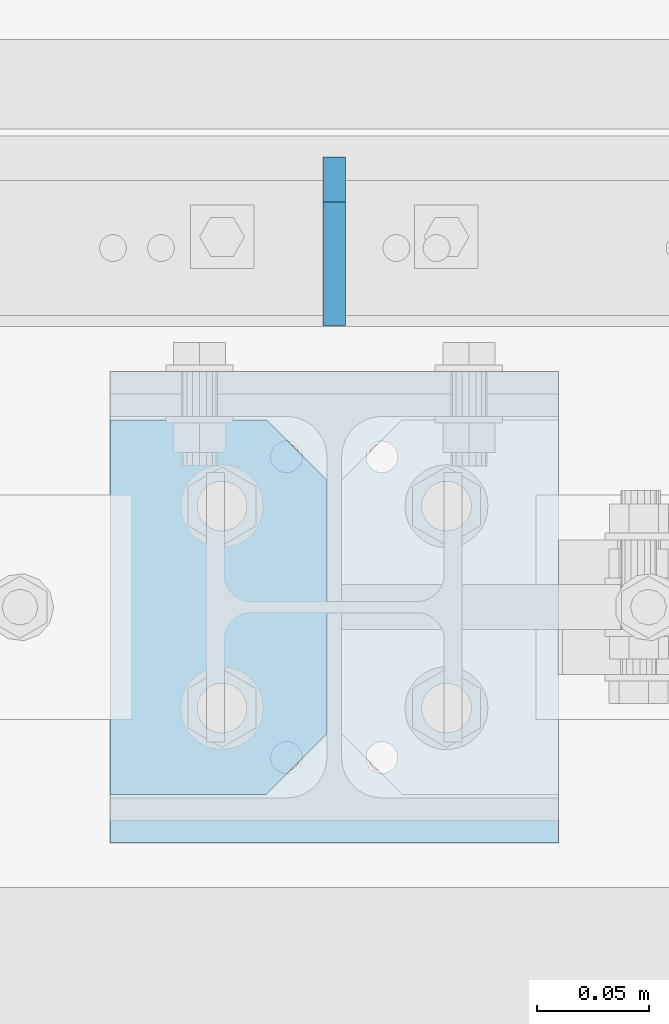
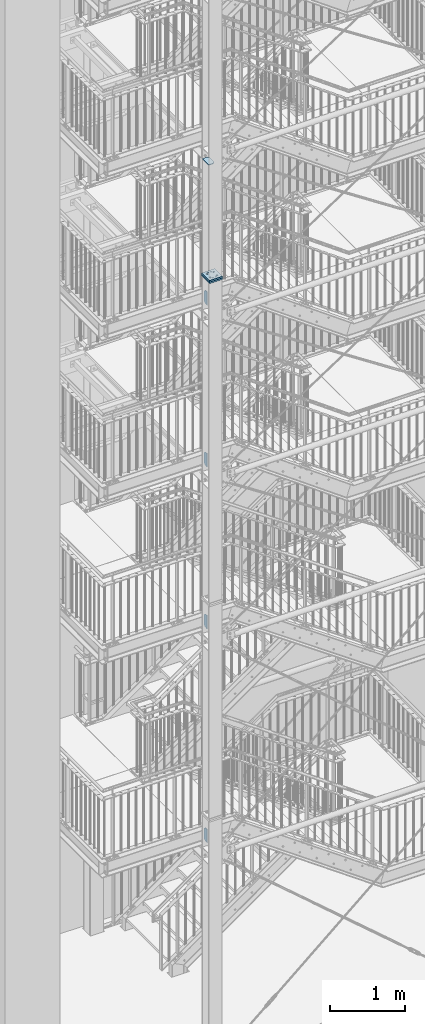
# One storey, part 151 of 825: 7 plates, 26 openings.
"""IFC2X3 building model written with IfcOpenShell, lengths in millimetres."""

from ifc_helpers import new_model, entity, si_unit, converted_unit, frame, frame_2d, origin, origin_with_axes, origin_2d_with_axis, place, context, project, spatial, polyline, circle, outline, extrude, material, layer, layer_set, element, save


model = new_model("IFC2X3")

# Units and contexts
model_context = context("Model", 3, precision=1e-09, world=origin_with_axes())
ifc_project = project(units=[si_unit("LENGTHUNIT", "METRE", prefix="MILLI"), si_unit("AREAUNIT", "SQUARE_METRE"), si_unit("VOLUMEUNIT", "CUBIC_METRE"), converted_unit("PLANEANGLEUNIT", "DEGREE", entity("IfcPlaneAngleMeasure", 0.01745329), si_unit("PLANEANGLEUNIT", "RADIAN"), dimensions=[0, 0, 0, 0, 0, 0, 0])], contexts=[model_context])

# Site, building, storey
site_placement = place(None, origin_with_axes())
site = spatial("IfcSite", under=ifc_project, at=site_placement, Name="Cnopf'sche Kinderklinik", CompositionType="ELEMENT")
building_placement = place(site_placement, origin_with_axes())
building = spatial("IfcBuilding", under=site, at=building_placement, Name="Struktur 1", CompositionType="ELEMENT")
storey_placement = place(building_placement, origin_with_axes())
storey = spatial("IfcBuildingStorey", under=building, at=storey_placement, Name="Default Storey", CompositionType="ELEMENT", Elevation=0.0)

# Plate, openings
ifc_material = material(Name="S235JR")
ifc_layer_1 = layer(ifc_material, 10.0)
ifc_layer_set_1 = layer_set([ifc_layer_1], Name="S235JR")
plate_1_placement = place(None, frame((4756.713402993, 4450.236971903, 14794.0), z_axis=(0.0, 0.0, -1.0), x_axis=(1.0, 0.0, 0.0)))
plate_1 = element("IfcPlate", 1, at=plate_1_placement, inside=storey, material=ifc_layer_set_1, Name="Stiffener#4", ObjectType="Stiffener#4", context=model_context, shape_type="SweptSolid", body=[
    extrude(outline(polyline([(0.0, 0.0), (96.75, 0.0), (96.75, 167.0), (0.0, 167.0), (0.0, 0.0)])), origin_with_axes(), (0.0, 0.0, 1.0), 10.0),
])
opening_1_placement = place(plate_1_placement, frame((0.0, 0.0, -0.01), z_axis=(0.0, 0.0, 1.0), x_axis=(1.0, 0.0, 0.0)))
element("IfcOpeningElement", 2, at=opening_1_placement, cuts=plate_1, ObjectType="Opening", context=model_context, shape_type="SweptSolid", body=[
    extrude(outline(polyline([(96.75, 167.0), (69.75, 167.0), (96.75, 140.0), (96.75, 167.0)])), origin(), (0.0, 0.0, 1.0), 10.02),
])
opening_2_placement = place(plate_1_placement, frame((0.0, 0.0, -0.01), z_axis=(0.0, 0.0, 1.0), x_axis=(1.0, 0.0, 0.0)))
element("IfcOpeningElement", 3, at=opening_2_placement, cuts=plate_1, ObjectType="Opening", context=model_context, shape_type="SweptSolid", body=[
    extrude(outline(polyline([(96.75, 0.0), (96.75, 27.0), (69.75, 0.0), (96.75, 0.0)])), origin(), (0.0, 0.0, 1.0), 10.02),
])

ifc_layer_2 = layer(ifc_material, 25.0)
ifc_layer_set_2 = layer_set([ifc_layer_2], Name="S235JR")
plate_2_placement = place(None, frame((4856.713402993, 4366.736971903, 12900.0), z_axis=(0.0, 0.0, -1.0), x_axis=(0.0, 1.0, 0.0)))
plate_2 = element("IfcPlate", 4, at=plate_2_placement, inside=storey, material=ifc_layer_set_2, Name="Endplate#1", ObjectType="Endplate#1", context=model_context, shape_type="SweptSolid", body=[
    extrude(outline(polyline([(-105.0, -100.0), (105.0, -100.0), (105.0, 100.0), (-105.0, 100.0), (-105.0, -100.0)])), origin_with_axes(), (0.0, 0.0, 1.0), 25.0),
])
opening_3_placement = place(plate_2_placement, frame((67.0, 21.25, -0.5), z_axis=(0.0, 0.0, 1.0), x_axis=(1.0, 0.0, 0.0)))
element("IfcOpeningElement", 5, at=opening_3_placement, cuts=plate_2, ObjectType="Opening", context=model_context, shape_type="SweptSolid", body=[
    extrude(circle(Radius=7.001, at=origin_2d_with_axis()), origin(), (0.0, 0.0, 1.0), 26.0),
])
opening_4_placement = place(plate_2_placement, frame((-67.0, 21.25, -0.5), z_axis=(0.0, 0.0, 1.0), x_axis=(1.0, 0.0, 0.0)))
element("IfcOpeningElement", 6, at=opening_4_placement, cuts=plate_2, ObjectType="Opening", context=model_context, shape_type="SweptSolid", body=[
    extrude(circle(Radius=7.001, at=origin_2d_with_axis()), origin(), (0.0, 0.0, 1.0), 26.0),
])
opening_5_placement = place(plate_2_placement, frame((-67.0, -21.25, -0.5), z_axis=(0.0, 0.0, 1.0), x_axis=(1.0, 0.0, 0.0)))
element("IfcOpeningElement", 7, at=opening_5_placement, cuts=plate_2, ObjectType="Opening", context=model_context, shape_type="SweptSolid", body=[
    extrude(circle(Radius=7.001, at=origin_2d_with_axis()), origin(), (0.0, 0.0, 1.0), 26.0),
])
opening_6_placement = place(plate_2_placement, frame((67.0, -21.25, -0.5), z_axis=(0.0, 0.0, 1.0), x_axis=(1.0, 0.0, 0.0)))
element("IfcOpeningElement", 8, at=opening_6_placement, cuts=plate_2, ObjectType="Opening", context=model_context, shape_type="SweptSolid", body=[
    extrude(circle(Radius=7.001, at=origin_2d_with_axis()), origin(), (0.0, 0.0, 1.0), 26.0),
])
opening_7_placement = place(plate_2_placement, frame((45.0, -38.999, 25.5), z_axis=(0.0, 0.0, 1.0), x_axis=(1.0, 0.0, 0.0)))
element("IfcOpeningElement", 9, at=opening_7_placement, cuts=plate_2, ObjectType="Opening", context=model_context, shape_type="SweptSolid", body=[
    extrude(circle(Radius=11.001, at=frame_2d((0.0, -11.001), x_axis=(1.0, 0.0))), origin(), (0.0, 0.0, -1.0), 26.0),
])
opening_8_placement = place(plate_2_placement, frame((-45.0, -38.999, 25.5), z_axis=(0.0, 0.0, 1.0), x_axis=(1.0, 0.0, 0.0)))
element("IfcOpeningElement", 10, at=opening_8_placement, cuts=plate_2, ObjectType="Opening", context=model_context, shape_type="SweptSolid", body=[
    extrude(circle(Radius=11.001, at=frame_2d((0.0, -11.001), x_axis=(1.0, 0.0))), origin(), (0.0, 0.0, -1.0), 26.0),
])
opening_9_placement = place(plate_2_placement, frame((45.0, 61.001, 25.5), z_axis=(0.0, 0.0, 1.0), x_axis=(1.0, 0.0, 0.0)))
element("IfcOpeningElement", 11, at=opening_9_placement, cuts=plate_2, ObjectType="Opening", context=model_context, shape_type="SweptSolid", body=[
    extrude(circle(Radius=11.001, at=frame_2d((0.0, -11.001), x_axis=(1.0, 0.0))), origin(), (0.0, 0.0, -1.0), 26.0),
])
opening_10_placement = place(plate_2_placement, frame((-45.0, 61.001, 25.5), z_axis=(0.0, 0.0, 1.0), x_axis=(1.0, 0.0, 0.0)))
element("IfcOpeningElement", 12, at=opening_10_placement, cuts=plate_2, ObjectType="Opening", context=model_context, shape_type="SweptSolid", body=[
    extrude(circle(Radius=11.001, at=frame_2d((0.0, -11.001), x_axis=(1.0, 0.0))), origin(), (0.0, 0.0, -1.0), 26.0),
])

plate_3_placement = place(None, frame((4856.713402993, 4366.736971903, 12925.0), z_axis=(0.0, 0.0, -1.0), x_axis=(0.0, 1.0, 0.0)))
plate_3 = element("IfcPlate", 13, at=plate_3_placement, inside=storey, material=ifc_layer_set_2, Name="Endplate#2", ObjectType="Endplate#2", context=model_context, shape_type="SweptSolid", body=[
    extrude(outline(polyline([(-105.0, -100.0), (105.0, -100.0), (105.0, 100.0), (-105.0, 100.0), (-105.0, -100.0)])), origin_with_axes(), (0.0, 0.0, 1.0), 25.0),
])
opening_11_placement = place(plate_3_placement, frame((67.0, 21.25, 25.5), z_axis=(0.0, 0.0, -1.0), x_axis=(-1.0, 0.0, 0.0)))
element("IfcOpeningElement", 14, at=opening_11_placement, cuts=plate_3, ObjectType="Opening", context=model_context, shape_type="SweptSolid", body=[
    extrude(circle(Radius=7.001, at=origin_2d_with_axis()), origin(), (0.0, 0.0, 1.0), 26.0),
])
opening_12_placement = place(plate_3_placement, frame((-67.0, 21.25, 25.5), z_axis=(0.0, 0.0, -1.0), x_axis=(-1.0, 0.0, 0.0)))
element("IfcOpeningElement", 15, at=opening_12_placement, cuts=plate_3, ObjectType="Opening", context=model_context, shape_type="SweptSolid", body=[
    extrude(circle(Radius=7.001, at=origin_2d_with_axis()), origin(), (0.0, 0.0, 1.0), 26.0),
])
opening_13_placement = place(plate_3_placement, frame((-67.0, -21.25, 25.5), z_axis=(0.0, 0.0, -1.0), x_axis=(-1.0, 0.0, 0.0)))
element("IfcOpeningElement", 16, at=opening_13_placement, cuts=plate_3, ObjectType="Opening", context=model_context, shape_type="SweptSolid", body=[
    extrude(circle(Radius=7.001, at=origin_2d_with_axis()), origin(), (0.0, 0.0, 1.0), 26.0),
])
opening_14_placement = place(plate_3_placement, frame((67.0, -21.25, 25.5), z_axis=(0.0, 0.0, -1.0), x_axis=(-1.0, 0.0, 0.0)))
element("IfcOpeningElement", 17, at=opening_14_placement, cuts=plate_3, ObjectType="Opening", context=model_context, shape_type="SweptSolid", body=[
    extrude(circle(Radius=7.001, at=origin_2d_with_axis()), origin(), (0.0, 0.0, 1.0), 26.0),
])
opening_15_placement = place(plate_3_placement, frame((45.0, -38.999, 25.5), z_axis=(0.0, 0.0, 1.0), x_axis=(1.0, 0.0, 0.0)))
element("IfcOpeningElement", 18, at=opening_15_placement, cuts=plate_3, ObjectType="Opening", context=model_context, shape_type="SweptSolid", body=[
    extrude(circle(Radius=11.001, at=frame_2d((0.0, -11.001), x_axis=(1.0, 0.0))), origin(), (0.0, 0.0, -1.0), 26.0),
])
opening_16_placement = place(plate_3_placement, frame((-45.0, -38.999, 25.5), z_axis=(0.0, 0.0, 1.0), x_axis=(1.0, 0.0, 0.0)))
element("IfcOpeningElement", 19, at=opening_16_placement, cuts=plate_3, ObjectType="Opening", context=model_context, shape_type="SweptSolid", body=[
    extrude(circle(Radius=11.001, at=frame_2d((0.0, -11.001), x_axis=(1.0, 0.0))), origin(), (0.0, 0.0, -1.0), 26.0),
])
opening_17_placement = place(plate_3_placement, frame((45.0, 61.001, 25.5), z_axis=(0.0, 0.0, 1.0), x_axis=(1.0, 0.0, 0.0)))
element("IfcOpeningElement", 20, at=opening_17_placement, cuts=plate_3, ObjectType="Opening", context=model_context, shape_type="SweptSolid", body=[
    extrude(circle(Radius=11.001, at=frame_2d((0.0, -11.001), x_axis=(1.0, 0.0))), origin(), (0.0, 0.0, -1.0), 26.0),
])
opening_18_placement = place(plate_3_placement, frame((-45.0, 61.001, 25.5), z_axis=(0.0, 0.0, 1.0), x_axis=(1.0, 0.0, 0.0)))
element("IfcOpeningElement", 21, at=opening_18_placement, cuts=plate_3, ObjectType="Opening", context=model_context, shape_type="SweptSolid", body=[
    extrude(circle(Radius=11.001, at=frame_2d((0.0, -11.001), x_axis=(1.0, 0.0))), origin(), (0.0, 0.0, -1.0), 26.0),
])

plate_4_placement = place(None, frame((4851.713402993, 4567.236971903, 3829.855161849), z_axis=(1.0, 0.0, 0.0), x_axis=(0.0, -0.996815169, 0.079746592)))
plate_4 = element("IfcPlate", 22, at=plate_4_placement, inside=storey, material=ifc_layer_set_1, Name="Stiffener#1", ObjectType="Stiffener#1", context=model_context, shape_type="SweptSolid", body=[
    extrude(outline(polyline([(0.0, 0.0), (75.239625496, 0.0), (57.877952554, 217.017159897), (-16.404697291, 205.05517107), (0.0, 0.0)])), origin_with_axes(), (0.0, 0.0, 1.0), 10.0),
])
opening_19_placement = place(plate_4_placement, frame((0.0, 0.0, -0.01), z_axis=(0.0, 0.0, 1.0), x_axis=(1.0, 0.0, 0.0)))
element("IfcOpeningElement", 23, at=opening_19_placement, cuts=plate_4, ObjectType="Opening", context=model_context, shape_type="SweptSolid", body=[
    extrude(outline(polyline([(-16.404697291, 205.05517107), (-14.809765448, 185.118867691), (3.34092195, 208.23487558), (-16.404697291, 205.05517107)])), origin(), (0.0, 0.0, 1.0), 10.02),
])
opening_20_placement = place(plate_4_placement, frame((0.0, 0.0, -0.01), z_axis=(0.0, 0.0, 1.0), x_axis=(1.0, 0.0, 0.0)))
element("IfcOpeningElement", 24, at=opening_20_placement, cuts=plate_4, ObjectType="Opening", context=model_context, shape_type="SweptSolid", body=[
    extrude(outline(polyline([(0.0, 0.0), (20.0, 0.0), (-1.594931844, 19.936303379), (0.0, 0.0)])), origin(), (0.0, 0.0, 1.0), 10.02),
])

plate_5_placement = place(None, frame((4851.713402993, 4567.236971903, 7302.855161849), z_axis=(1.0, 0.0, 0.0), x_axis=(0.0, -0.996815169, 0.079746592)))
plate_5 = element("IfcPlate", 25, at=plate_5_placement, inside=storey, material=ifc_layer_set_1, Name="Stiffener#1", ObjectType="Stiffener#1", context=model_context, shape_type="SweptSolid", body=[
    extrude(outline(polyline([(0.0, 0.0), (75.239625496, 0.0), (57.877952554, 217.017159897), (-16.404697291, 205.05517107), (0.0, 0.0)])), origin_with_axes(), (0.0, 0.0, 1.0), 10.0),
])
opening_21_placement = place(plate_5_placement, frame((0.0, 0.0, -0.01), z_axis=(0.0, 0.0, 1.0), x_axis=(1.0, 0.0, 0.0)))
element("IfcOpeningElement", 26, at=opening_21_placement, cuts=plate_5, ObjectType="Opening", context=model_context, shape_type="SweptSolid", body=[
    extrude(outline(polyline([(-16.404697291, 205.05517107), (-14.809765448, 185.118867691), (3.34092195, 208.23487558), (-16.404697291, 205.05517107)])), origin(), (0.0, 0.0, 1.0), 10.02),
])
opening_22_placement = place(plate_5_placement, frame((0.0, 0.0, -0.01), z_axis=(0.0, 0.0, 1.0), x_axis=(1.0, 0.0, 0.0)))
element("IfcOpeningElement", 27, at=opening_22_placement, cuts=plate_5, ObjectType="Opening", context=model_context, shape_type="SweptSolid", body=[
    extrude(outline(polyline([(0.0, 0.0), (20.0, 0.0), (-1.594931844, 19.936303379), (0.0, 0.0)])), origin(), (0.0, 0.0, 1.0), 10.02),
])

plate_6_placement = place(None, frame((4851.713402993, 4567.236971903, 9934.855161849), z_axis=(1.0, 0.0, 0.0), x_axis=(0.0, -0.996815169, 0.079746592)))
plate_6 = element("IfcPlate", 28, at=plate_6_placement, inside=storey, material=ifc_layer_set_1, Name="Stiffener#1", ObjectType="Stiffener#1", context=model_context, shape_type="SweptSolid", body=[
    extrude(outline(polyline([(0.0, 0.0), (75.239625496, 0.0), (57.877952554, 217.017159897), (-16.404697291, 205.05517107), (0.0, 0.0)])), origin_with_axes(), (0.0, 0.0, 1.0), 10.0),
])
opening_23_placement = place(plate_6_placement, frame((0.0, 0.0, -0.01), z_axis=(0.0, 0.0, 1.0), x_axis=(1.0, 0.0, 0.0)))
element("IfcOpeningElement", 29, at=opening_23_placement, cuts=plate_6, ObjectType="Opening", context=model_context, shape_type="SweptSolid", body=[
    extrude(outline(polyline([(-16.404697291, 205.05517107), (-14.809765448, 185.118867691), (3.34092195, 208.23487558), (-16.404697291, 205.05517107)])), origin(), (0.0, 0.0, 1.0), 10.02),
])
opening_24_placement = place(plate_6_placement, frame((0.0, 0.0, -0.01), z_axis=(0.0, 0.0, 1.0), x_axis=(1.0, 0.0, 0.0)))
element("IfcOpeningElement", 30, at=opening_24_placement, cuts=plate_6, ObjectType="Opening", context=model_context, shape_type="SweptSolid", body=[
    extrude(outline(polyline([(0.0, 0.0), (20.0, 0.0), (-1.594931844, 19.936303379), (0.0, 0.0)])), origin(), (0.0, 0.0, 1.0), 10.02),
])

plate_7_placement = place(None, frame((4851.713402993, 4567.236971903, 12561.855161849), z_axis=(1.0, 0.0, 0.0), x_axis=(0.0, -0.996815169, 0.079746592)))
plate_7 = element("IfcPlate", 31, at=plate_7_placement, inside=storey, material=ifc_layer_set_1, Name="Stiffener#1", ObjectType="Stiffener#1", context=model_context, shape_type="SweptSolid", body=[
    extrude(outline(polyline([(0.0, 0.0), (75.239625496, 0.0), (57.877952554, 217.017159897), (-16.404697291, 205.05517107), (0.0, 0.0)])), origin_with_axes(), (0.0, 0.0, 1.0), 10.0),
])
opening_25_placement = place(plate_7_placement, frame((0.0, 0.0, -0.01), z_axis=(0.0, 0.0, 1.0), x_axis=(1.0, 0.0, 0.0)))
element("IfcOpeningElement", 32, at=opening_25_placement, cuts=plate_7, ObjectType="Opening", context=model_context, shape_type="SweptSolid", body=[
    extrude(outline(polyline([(-16.404697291, 205.05517107), (-14.809765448, 185.118867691), (3.34092195, 208.23487558), (-16.404697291, 205.05517107)])), origin(), (0.0, 0.0, 1.0), 10.02),
])
opening_26_placement = place(plate_7_placement, frame((0.0, 0.0, -0.01), z_axis=(0.0, 0.0, 1.0), x_axis=(1.0, 0.0, 0.0)))
element("IfcOpeningElement", 33, at=opening_26_placement, cuts=plate_7, ObjectType="Opening", context=model_context, shape_type="SweptSolid", body=[
    extrude(outline(polyline([(0.0, 0.0), (20.0, 0.0), (-1.594931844, 19.936303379), (0.0, 0.0)])), origin(), (0.0, 0.0, 1.0), 10.02),
])

save(model, "model.ifc")
